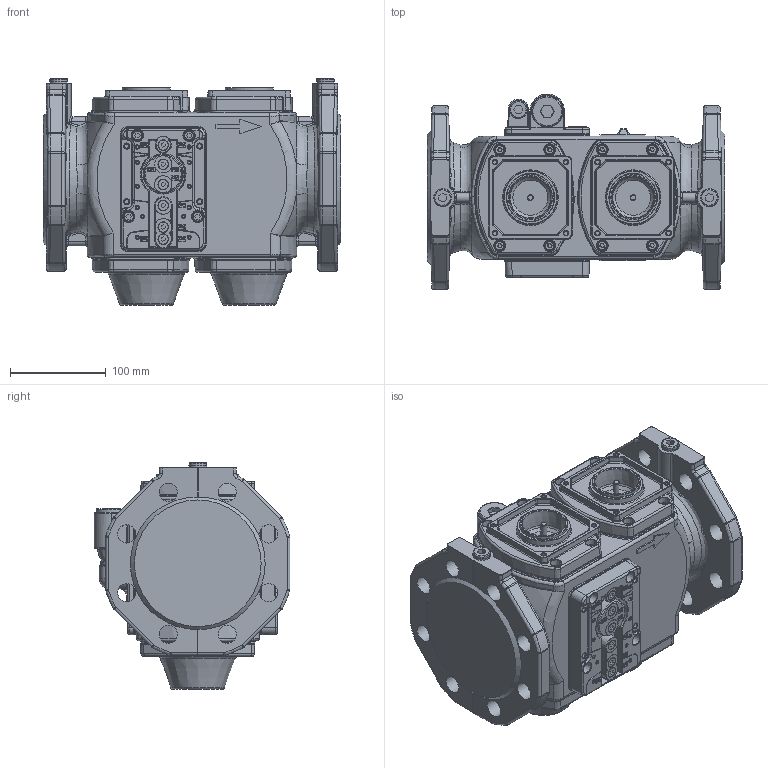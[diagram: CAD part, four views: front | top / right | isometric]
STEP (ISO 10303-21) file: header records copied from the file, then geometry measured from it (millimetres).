
FILE_DESCRIPTION(/* description */ (''),/* implementation_level */ '2;1');
FILE_NAME(/* name */ 'A5W00027604_02.stp',/* time_stamp */ '2018-06-26T12:22:13+02:00',/* author */ (''),/* organization */ (''),/* preprocessor_version */ 'ST-DEVELOPER v16',/* originating_system */ 'SIEMENS PLM Software NX 10.0',/* authorisation */ '');
FILE_SCHEMA (('AUTOMOTIVE_DESIGN { 1 0 10303 214 3 1 1 1 }'));
Products named in the file (1): Gant1EE462B7x4fq
Bounding box: 310 x 204 x 236.5 mm (x, y, z)
Volume: 7037406.4 mm3; surface area: 369804.3 mm2
Topology: 1 solids, 5 shells, 2576 faces, 6316 edges, 3863 vertices
Faces by surface type: plane 911, cylinder 673, bspline 469, torus 222, cone 199, extrusion 60, sphere 42
Full cylindrical faces by diameter (mm): 5.188 x2, 5.3 x6, 6 x2, 10 x24, 10.5 x6, 11 x6, 13.5 x3, 18 x3, 18.5 x3, 19 x16, 27 x1, 32 x1, 32.5 x1
Entity records: 81926 total; most frequent: CARTESIAN_POINT 25263, ORIENTED_EDGE 11642, DIRECTION 11574, EDGE_CURVE 5821, AXIS2_PLACEMENT_3D 4498, VERTEX_POINT 3740, EDGE_LOOP 3101, VECTOR 2578
